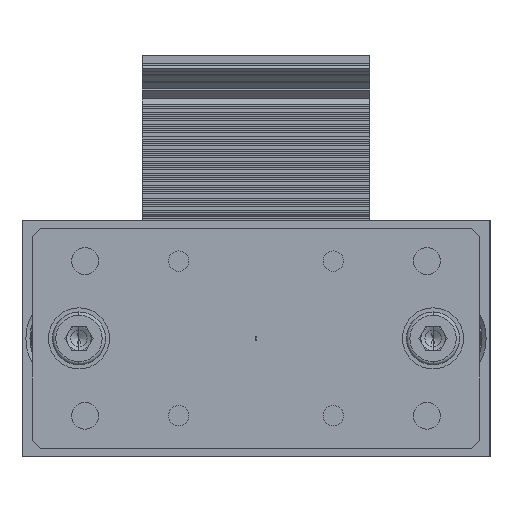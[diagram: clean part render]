
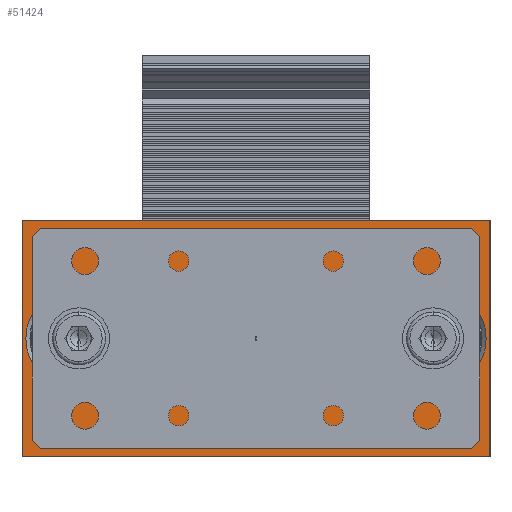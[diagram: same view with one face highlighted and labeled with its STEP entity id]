
A CAD part, left-side view. The second image highlights one B-rep face of the part: STEP entity #51424.
In plain terms, the highlighted planar face has unit normal (-1, 0, 0).
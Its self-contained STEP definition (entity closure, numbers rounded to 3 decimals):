
#2625 = CIRCLE ( 'NONE', #36321, 3.5 ) ;
#4306 = DIRECTION ( 'NONE',  ( 1., 0., 0. ) ) ;
#4721 = DIRECTION ( 'NONE',  ( 0., 1., 0. ) ) ;
#6784 = VECTOR ( 'NONE', #32182, 1000. ) ;
#7494 = DIRECTION ( 'NONE',  ( 0., -1., 0. ) ) ;
#8175 = CIRCLE ( 'NONE', #85334, 13.05 ) ;
#8933 = VECTOR ( 'NONE', #46448, 1000. ) ;
#9412 = CARTESIAN_POINT ( 'NONE',  ( -70., 43.5, 0. ) ) ;
#11175 = DIRECTION ( 'NONE',  ( 0., -1., 0. ) ) ;
#14698 = ORIENTED_EDGE ( 'NONE', *, *, #42206, .T. ) ;
#15625 = ORIENTED_EDGE ( 'NONE', *, *, #75558, .T. ) ;
#16227 = FACE_BOUND ( 'NONE', #51748, .T. ) ;
#16380 = CARTESIAN_POINT ( 'NONE',  ( -70., -43.5, -13.05 ) ) ;
#17964 = DIRECTION ( 'NONE',  ( 0., 1., 0. ) ) ;
#18449 = VERTEX_POINT ( 'NONE', #26646 ) ;
#19365 = ORIENTED_EDGE ( 'NONE', *, *, #28537, .F. ) ;
#20954 = VERTEX_POINT ( 'NONE', #80202 ) ;
#21517 = CARTESIAN_POINT ( 'NONE',  ( -70., 3.5, 0. ) ) ;
#22152 = DIRECTION ( 'NONE',  ( 0., 1., 0. ) ) ;
#22258 = CARTESIAN_POINT ( 'NONE',  ( -70., 0., 0. ) ) ;
#22877 = EDGE_LOOP ( 'NONE', ( #86708, #19365, #31169, #15625 ) ) ;
#23161 = ORIENTED_EDGE ( 'NONE', *, *, #29030, .T. ) ;
#24083 = CARTESIAN_POINT ( 'NONE',  ( -70., 57.5, 29. ) ) ;
#25391 = VECTOR ( 'NONE', #11175, 1000. ) ;
#26438 = VERTEX_POINT ( 'NONE', #60082 ) ;
#26646 = CARTESIAN_POINT ( 'NONE',  ( -70., 43.5, 13.05 ) ) ;
#28000 = EDGE_CURVE ( 'NONE', #18449, #48615, #78959, .T. ) ;
#28537 = EDGE_CURVE ( 'NONE', #85930, #20954, #59706, .T. ) ;
#29030 = EDGE_CURVE ( 'NONE', #43546, #47950, #66539, .T. ) ;
#30155 = CARTESIAN_POINT ( 'NONE',  ( -70., 0., 0. ) ) ;
#30680 = ORIENTED_EDGE ( 'NONE', *, *, #52988, .T. ) ;
#31169 = ORIENTED_EDGE ( 'NONE', *, *, #59671, .F. ) ;
#32137 = DIRECTION ( 'NONE',  ( 1., 0., 0. ) ) ;
#32182 = DIRECTION ( 'NONE',  ( 0., 0., -1. ) ) ;
#32320 = EDGE_CURVE ( 'NONE', #62170, #26438, #8175, .T. ) ;
#32461 = EDGE_CURVE ( 'NONE', #47950, #43546, #2625, .T. ) ;
#35679 = AXIS2_PLACEMENT_3D ( 'NONE', #22258, #43244, #69235 ) ;
#35724 = DIRECTION ( 'NONE',  ( 1., 0., 0. ) ) ;
#36038 = AXIS2_PLACEMENT_3D ( 'NONE', #85144, #44621, #4721 ) ;
#36321 = AXIS2_PLACEMENT_3D ( 'NONE', #30155, #45350, #64817 ) ;
#36383 = CARTESIAN_POINT ( 'NONE',  ( -70., -3.5, 0. ) ) ;
#36805 = FACE_BOUND ( 'NONE', #72503, .T. ) ;
#36996 = ORIENTED_EDGE ( 'NONE', *, *, #28000, .T. ) ;
#42206 = EDGE_CURVE ( 'NONE', #48615, #18449, #46682, .T. ) ;
#42503 = CARTESIAN_POINT ( 'NONE',  ( -70., 57.5, 29. ) ) ;
#42889 = FACE_OUTER_BOUND ( 'NONE', #22877, .T. ) ;
#43244 = DIRECTION ( 'NONE',  ( 1., 0., 0. ) ) ;
#43546 = VERTEX_POINT ( 'NONE', #21517 ) ;
#44621 = DIRECTION ( 'NONE',  ( 1., 0., 0. ) ) ;
#44757 = ORIENTED_EDGE ( 'NONE', *, *, #32461, .T. ) ;
#45350 = DIRECTION ( 'NONE',  ( 1., 0., 0. ) ) ;
#46448 = DIRECTION ( 'NONE',  ( 0., 0., -1. ) ) ;
#46682 = CIRCLE ( 'NONE', #62197, 13.05 ) ;
#47591 = CARTESIAN_POINT ( 'NONE',  ( -70., 57.5, 29. ) ) ;
#47950 = VERTEX_POINT ( 'NONE', #36383 ) ;
#48615 = VERTEX_POINT ( 'NONE', #69318 ) ;
#48701 = LINE ( 'NONE', #42503, #77980 ) ;
#49623 = CARTESIAN_POINT ( 'NONE',  ( -70., -43.5, 0. ) ) ;
#51424 = ADVANCED_FACE ( 'NONE', ( #16227, #71488, #36805, #42889 ), #84298, .F. ) ;
#51748 = EDGE_LOOP ( 'NONE', ( #30680, #85959 ) ) ;
#52738 = LINE ( 'NONE', #59798, #6784 ) ;
#52988 = EDGE_CURVE ( 'NONE', #26438, #62170, #69723, .T. ) ;
#53021 = CARTESIAN_POINT ( 'NONE',  ( -70., -57.5, 29. ) ) ;
#58911 = DIRECTION ( 'NONE',  ( 0., 1., 0. ) ) ;
#59168 = DIRECTION ( 'NONE',  ( 0., 1., 0. ) ) ;
#59671 = EDGE_CURVE ( 'NONE', #71768, #85930, #48701, .T. ) ;
#59706 = LINE ( 'NONE', #79040, #8933 ) ;
#59798 = CARTESIAN_POINT ( 'NONE',  ( -70., 57.5, 29. ) ) ;
#60082 = CARTESIAN_POINT ( 'NONE',  ( -70., -43.5, 13.05 ) ) ;
#62170 = VERTEX_POINT ( 'NONE', #16380 ) ;
#62197 = AXIS2_PLACEMENT_3D ( 'NONE', #9412, #35724, #22152 ) ;
#62261 = AXIS2_PLACEMENT_3D ( 'NONE', #24083, #4306, #17964 ) ;
#64817 = DIRECTION ( 'NONE',  ( 0., 1., 0. ) ) ;
#65322 = DIRECTION ( 'NONE',  ( 1., 0., 0. ) ) ;
#65504 = CARTESIAN_POINT ( 'NONE',  ( -70., 43.5, 0. ) ) ;
#66539 = CIRCLE ( 'NONE', #35679, 3.5 ) ;
#69235 = DIRECTION ( 'NONE',  ( 0., 1., 0. ) ) ;
#69318 = CARTESIAN_POINT ( 'NONE',  ( -70., 43.5, -13.05 ) ) ;
#69723 = CIRCLE ( 'NONE', #36038, 13.05 ) ;
#70879 = LINE ( 'NONE', #77467, #25391 ) ;
#71488 = FACE_BOUND ( 'NONE', #82626, .T. ) ;
#71768 = VERTEX_POINT ( 'NONE', #47591 ) ;
#72503 = EDGE_LOOP ( 'NONE', ( #23161, #44757 ) ) ;
#73286 = AXIS2_PLACEMENT_3D ( 'NONE', #65504, #32137, #58911 ) ;
#75558 = EDGE_CURVE ( 'NONE', #71768, #82825, #52738, .T. ) ;
#77344 = EDGE_CURVE ( 'NONE', #82825, #20954, #70879, .T. ) ;
#77467 = CARTESIAN_POINT ( 'NONE',  ( -70., 57.5, -29. ) ) ;
#77980 = VECTOR ( 'NONE', #7494, 1000. ) ;
#78959 = CIRCLE ( 'NONE', #73286, 13.05 ) ;
#79040 = CARTESIAN_POINT ( 'NONE',  ( -70., -57.5, 29. ) ) ;
#80202 = CARTESIAN_POINT ( 'NONE',  ( -70., -57.5, -29. ) ) ;
#82626 = EDGE_LOOP ( 'NONE', ( #36996, #14698 ) ) ;
#82825 = VERTEX_POINT ( 'NONE', #86640 ) ;
#84298 = PLANE ( 'NONE',  #62261 ) ;
#85144 = CARTESIAN_POINT ( 'NONE',  ( -70., -43.5, 0. ) ) ;
#85334 = AXIS2_PLACEMENT_3D ( 'NONE', #49623, #65322, #59168 ) ;
#85930 = VERTEX_POINT ( 'NONE', #53021 ) ;
#85959 = ORIENTED_EDGE ( 'NONE', *, *, #32320, .T. ) ;
#86640 = CARTESIAN_POINT ( 'NONE',  ( -70., 57.5, -29. ) ) ;
#86708 = ORIENTED_EDGE ( 'NONE', *, *, #77344, .T. ) ;
